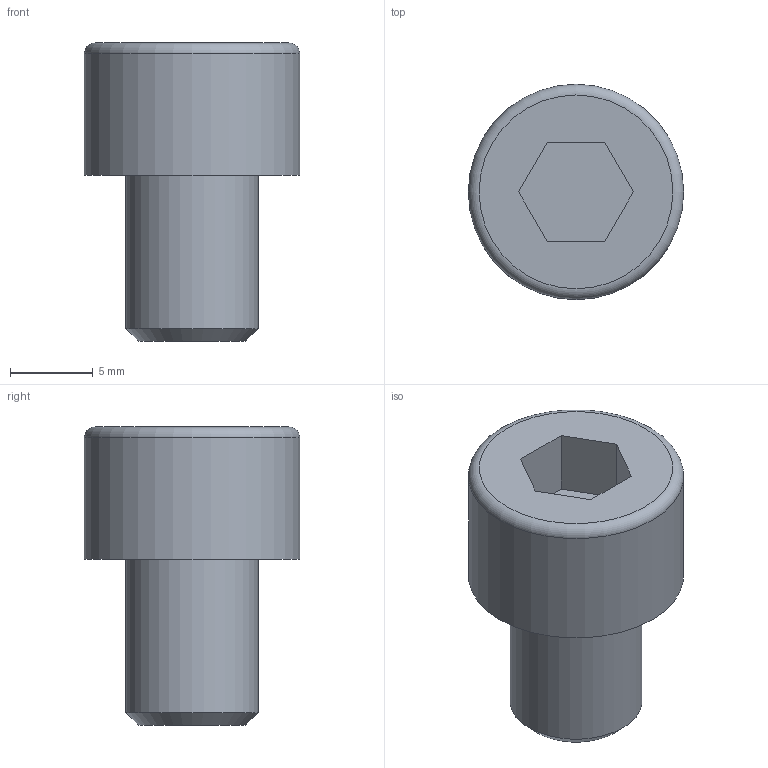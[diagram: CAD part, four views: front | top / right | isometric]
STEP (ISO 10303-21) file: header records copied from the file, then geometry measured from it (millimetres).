
FILE_DESCRIPTION(('FreeCAD Model'),'2;1');
FILE_NAME('C:/Users/Antonio/Desktop/screws/hex_recessed_cylindrical_head_M8x10.step','2020-02-08T09:51:05',('Author'),(''), 'Open CASCADE STEP processor 7.3','FreeCAD','Unknown');
FILE_SCHEMA(('AUTOMOTIVE_DESIGN { 1 0 10303 214 1 1 1 1 }'));
Length unit declared in the file: millimetre
Products named in the file (1): VITE_TESTA_CILINDRICA_ALTA_ESAGONO_INCASSATO
Bounding box: 13 x 13 x 18 mm (x, y, z)
Volume: 1431.1 mm3; surface area: 902.3 mm2
Topology: 1 solids, 1 shells, 14 faces, 28 edges, 18 vertices
Faces by surface type: plane 10, cylinder 2, cone 1, torus 1
Full cylindrical faces by diameter (mm): 8 x1, 13 x1
Entity records: 837 total; most frequent: DIRECTION 121, CARTESIAN_POINT 117, LINE 73, VECTOR 73, ORIENTED_EDGE 56, PCURVE 56, DEFINITIONAL_REPRESENTATION 56, EDGE_CURVE 28
